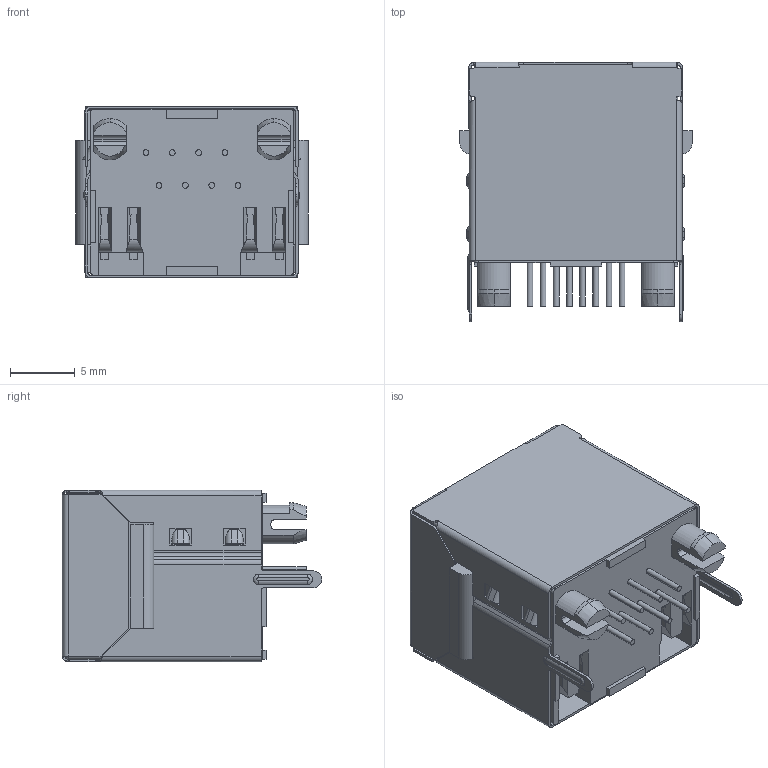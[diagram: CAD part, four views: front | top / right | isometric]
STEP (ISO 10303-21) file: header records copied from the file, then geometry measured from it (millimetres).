
FILE_DESCRIPTION((''),'2;1');
FILE_NAME('DGKYD52TE1188GWA1DY1008','2023-08-03T19:18:19',('Administrator'),(''),'CREO PARAMETRIC BY PTC INC, 2019010','CREO PARAMETRIC BY PTC INC, 2019010','');
FILE_SCHEMA(('CONFIG_CONTROL_DESIGN'));
Length unit declared in the file: millimetre
Products named in the file (1): DGKYD52TE1188GWA1DY1008
Bounding box: 18 x 20.1 x 13.3 mm (x, y, z)
Volume: 1887.8 mm3; surface area: 4764.2 mm2
Topology: 1 solids, 3 shells, 733 faces, 2038 edges, 1307 vertices
Faces by surface type: plane 522, cylinder 177, bspline 24, cone 6, sphere 4
Entity records: 24469 total; most frequent: CARTESIAN_POINT 5872, ORIENTED_EDGE 4066, DIRECTION 3519, EDGE_CURVE 2034, VECTOR 1587, LINE 1587, VERTEX_POINT 1307, AXIS2_PLACEMENT_3D 966
